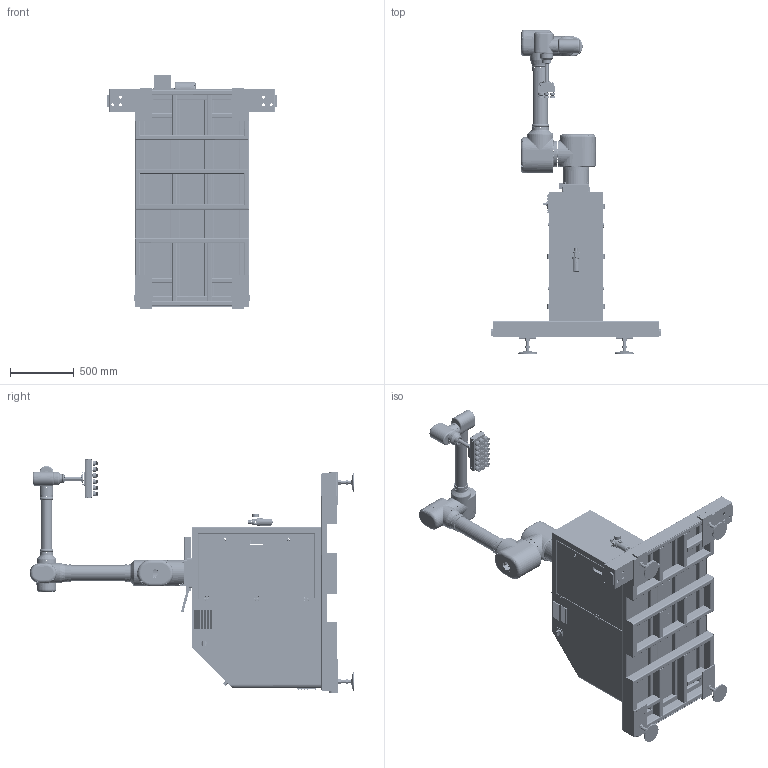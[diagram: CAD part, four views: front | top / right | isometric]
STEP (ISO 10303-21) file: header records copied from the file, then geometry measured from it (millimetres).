
FILE_DESCRIPTION (( 'STEP AP214' ), '1' );
FILE_NAME ('WP40S.STEP', '2025-03-17T07:53:01', ( '' ), ( '' ), 'SwSTEP 2.0', 'SolidWorks 2018', '' );
FILE_SCHEMA (( 'AUTOMOTIVE_DESIGN' ));
Length unit declared in the file: millimetre
Products named in the file (2): WP40S
Bounding box: 1330 x 2542.43 x 1825 mm (x, y, z)
Surface area: 20594885.1 mm2 (no closed solid volume)
Topology: 0 solids, 3081 shells, 7488 faces, 33954 edges, 29079 vertices
Faces by surface type: plane 4217, cylinder 2204, cone 522, bspline 282, torus 222, sphere 41
Entity records: 470208 total; most frequent: CARTESIAN_POINT 129537, DIRECTION 50242, ORIENTED_EDGE 41016, EDGE_CURVE 33862, VERTEX_POINT 29070, VECTOR 20754, LINE 20754, AXIS2_PLACEMENT_3D 14744
